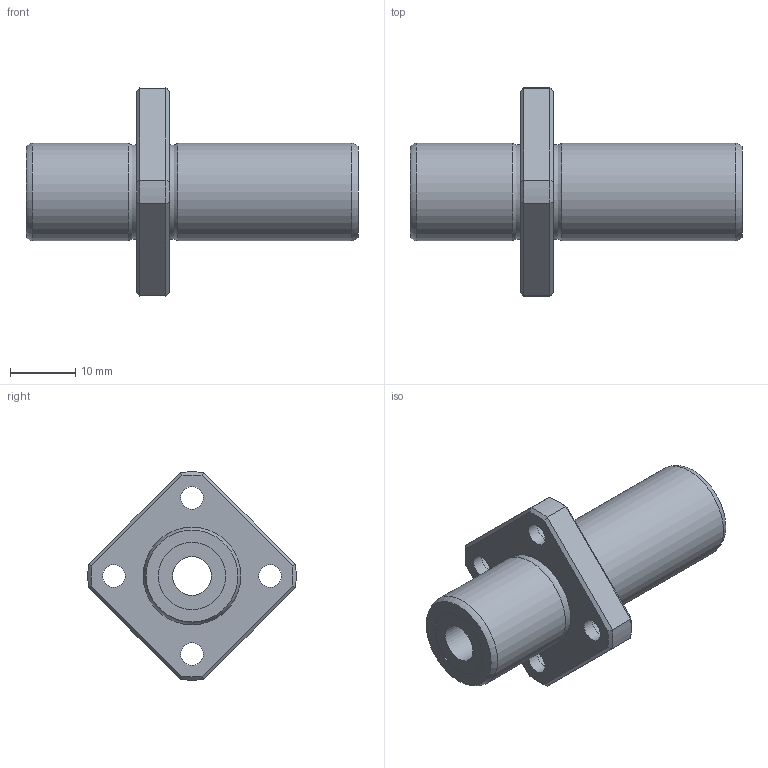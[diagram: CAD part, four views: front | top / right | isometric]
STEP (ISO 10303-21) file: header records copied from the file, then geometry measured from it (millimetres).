
FILE_DESCRIPTION((''),'2;1');
FILE_NAME('D:\製品 (図面)\カタログ用3D\リニアベアリング関連\STEP形式\LFLKC\LFLKC6.stp','2010-06-04T09:12:35',('Tsuchiya'),(''),'Autodesk Inventor 10','Autodesk Inventor 10','');
FILE_SCHEMA(('AUTOMOTIVE_DESIGN { 1 0 10303 214 1 1 1 1 }'));
Length unit declared in the file: millimetre
Products named in the file (1): LFLKC6
Bounding box: 51 x 31.98 x 31.98 mm (x, y, z)
Volume: 9243.7 mm3; surface area: 4949.1 mm2
Topology: 1 solids, 1 shells, 51 faces, 103 edges, 62 vertices
Faces by surface type: plane 18, bspline 14, cylinder 9, cone 8, torus 2
Full cylindrical faces by diameter (mm): 6 x1, 10.3 x2, 15 x2
Entity records: 1517 total; most frequent: CARTESIAN_POINT 520, DIRECTION 192, ORIENTED_EDGE 172, EDGE_CURVE 86, EDGE_LOOP 86, AXIS2_PLACEMENT_3D 84, VERTEX_POINT 62, FACE_OUTER_BOUND 51
